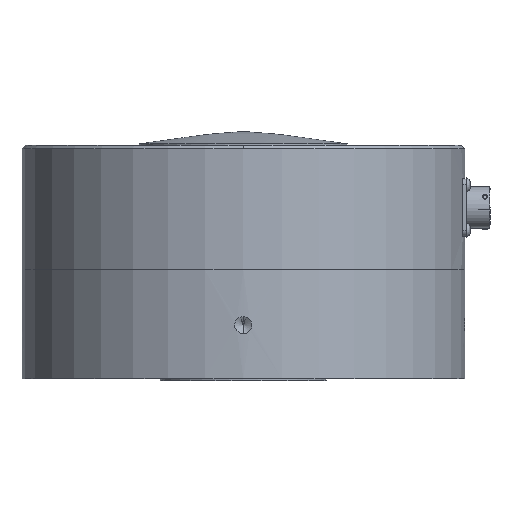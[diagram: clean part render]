
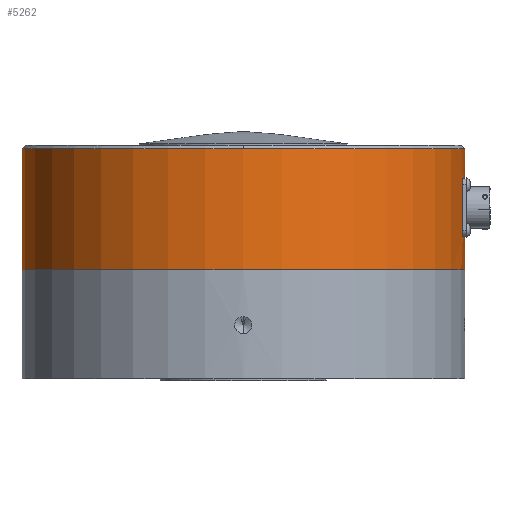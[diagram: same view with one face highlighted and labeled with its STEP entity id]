
A CAD part, front view. The second image highlights one B-rep face of the part: STEP entity #5262.
In plain terms, the highlighted cylindrical face has radius 101.575 mm (diameter 203.149 mm), a partial arc.
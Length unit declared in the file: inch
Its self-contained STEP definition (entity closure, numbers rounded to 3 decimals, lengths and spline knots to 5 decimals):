
#268 = EDGE_CURVE ( 'NONE', #7635, #1256, #9056, .T. ) ;
#827 = CARTESIAN_POINT ( 'NONE',  ( 3.96372, -0.53, -1.655 ) ) ;
#1110 = LINE ( 'NONE', #1111, #1112 ) ;
#1111 = CARTESIAN_POINT ( 'NONE',  ( 3.96372, -0.53, 0.48193 ) ) ;
#1112 = VECTOR ( 'NONE', #1113, 39.37008 ) ;
#1113 = DIRECTION ( 'NONE',  ( 0., 0., 1. ) ) ;
#1256 = VERTEX_POINT ( 'NONE', #9512 ) ;
#1283 = CARTESIAN_POINT ( 'NONE',  ( 3.999, 0., -0.595 ) ) ;
#1304 = CIRCLE ( 'NONE', #1305, 3.999 ) ;
#1305 = AXIS2_PLACEMENT_3D ( 'NONE', #1306, #1307, #1308 ) ;
#1306 = CARTESIAN_POINT ( 'NONE',  ( 0., 0., -1.655 ) ) ;
#1307 = DIRECTION ( 'NONE',  ( 0., 0., -1. ) ) ;
#1308 = DIRECTION ( 'NONE',  ( 1., 0., 0. ) ) ;
#1536 = LINE ( 'NONE', #1537, #1538 ) ;
#1537 = CARTESIAN_POINT ( 'NONE',  ( 3.999, 0., 0.48193 ) ) ;
#1538 = VECTOR ( 'NONE', #1539, 39.37008 ) ;
#1539 = DIRECTION ( 'NONE',  ( 0., 0., 1. ) ) ;
#2448 = CARTESIAN_POINT ( 'NONE',  ( 3.999, 0., -0.06 ) ) ;
#2593 = CIRCLE ( 'NONE', #2594, 3.999 ) ;
#2594 = AXIS2_PLACEMENT_3D ( 'NONE', #2595, #2598, #2599 ) ;
#2595 = CARTESIAN_POINT ( 'NONE',  ( 0., 0., -0.595 ) ) ;
#2598 = DIRECTION ( 'NONE',  ( 0., 0., 1. ) ) ;
#2599 = DIRECTION ( 'NONE',  ( 1., 0., 0. ) ) ;
#3632 = CARTESIAN_POINT ( 'NONE',  ( 3.96372, -0.53, -0.595 ) ) ;
#3796 = CARTESIAN_POINT ( 'NONE',  ( -3.999, 0., -0.06 ) ) ;
#3827 = ORIENTED_EDGE ( 'NONE', *, *, #8329, .T. ) ;
#3918 = LINE ( 'NONE', #3919, #3920 ) ;
#3919 = CARTESIAN_POINT ( 'NONE',  ( -3.999, 0., 0.48193 ) ) ;
#3920 = VECTOR ( 'NONE', #3921, 39.37008 ) ;
#3921 = DIRECTION ( 'NONE',  ( 0., 0., 1. ) ) ;
#4050 = VERTEX_POINT ( 'NONE', #11101 ) ;
#4118 = CIRCLE ( 'NONE', #4119, 3.999 ) ;
#4119 = AXIS2_PLACEMENT_3D ( 'NONE', #4120, #4121, #4122 ) ;
#4120 = CARTESIAN_POINT ( 'NONE',  ( 0., 0., -2.25 ) ) ;
#4121 = DIRECTION ( 'NONE',  ( 0., 0., 1. ) ) ;
#4122 = DIRECTION ( 'NONE',  ( 1., 0., 0. ) ) ;
#4273 = EDGE_CURVE ( 'NONE', #1256, #8187, #11248, .T. ) ;
#4290 = VERTEX_POINT ( 'NONE', #11253 ) ;
#4408 = ORIENTED_EDGE ( 'NONE', *, *, #8243, .F. ) ;
#4837 = LINE ( 'NONE', #4838, #4839 ) ;
#4838 = CARTESIAN_POINT ( 'NONE',  ( 3.999, 0., 0.48193 ) ) ;
#4839 = VECTOR ( 'NONE', #4840, 39.37008 ) ;
#4840 = DIRECTION ( 'NONE',  ( 0., 0., 1. ) ) ;
#4990 = EDGE_LOOP ( 'NONE', ( #4408, #3827, #8208, #8080, #7946, #7818, #7694, #7571, #7449 ) ) ;
#5262 = ADVANCED_FACE ( 'NONE', ( #11769 ), #11770, .T. ) ;
#5273 = CARTESIAN_POINT ( 'NONE',  ( 3.999, 0., -1.655 ) ) ;
#7287 = VERTEX_POINT ( 'NONE', #827 ) ;
#7342 = EDGE_CURVE ( 'NONE', #7287, #8093, #1110, .T. ) ;
#7374 = VERTEX_POINT ( 'NONE', #1283 ) ;
#7431 = EDGE_CURVE ( 'NONE', #7374, #7635, #1536, .T. ) ;
#7449 = ORIENTED_EDGE ( 'NONE', *, *, #4273, .T. ) ;
#7571 = ORIENTED_EDGE ( 'NONE', *, *, #268, .T. ) ;
#7635 = VERTEX_POINT ( 'NONE', #2448 ) ;
#7694 = ORIENTED_EDGE ( 'NONE', *, *, #7431, .T. ) ;
#7709 = EDGE_CURVE ( 'NONE', #8093, #7374, #2593, .T. ) ;
#7818 = ORIENTED_EDGE ( 'NONE', *, *, #7709, .T. ) ;
#7946 = ORIENTED_EDGE ( 'NONE', *, *, #7342, .T. ) ;
#8080 = ORIENTED_EDGE ( 'NONE', *, *, #12324, .T. ) ;
#8093 = VERTEX_POINT ( 'NONE', #3632 ) ;
#8187 = VERTEX_POINT ( 'NONE', #3796 ) ;
#8208 = ORIENTED_EDGE ( 'NONE', *, *, #8582, .T. ) ;
#8243 = EDGE_CURVE ( 'NONE', #4050, #8187, #3918, .T. ) ;
#8329 = EDGE_CURVE ( 'NONE', #4050, #4290, #4118, .T. ) ;
#8582 = EDGE_CURVE ( 'NONE', #4290, #8796, #4837, .T. ) ;
#8796 = VERTEX_POINT ( 'NONE', #5273 ) ;
#9056 = CIRCLE ( 'NONE', #9057, 3.999 ) ;
#9057 = AXIS2_PLACEMENT_3D ( 'NONE', #9058, #9059, #9060 ) ;
#9058 = CARTESIAN_POINT ( 'NONE',  ( 0., 0., -0.06 ) ) ;
#9059 = DIRECTION ( 'NONE',  ( 0., 0., -1. ) ) ;
#9060 = DIRECTION ( 'NONE',  ( 1., 0., 0. ) ) ;
#9512 = CARTESIAN_POINT ( 'NONE',  ( 0., -3.999, -0.06 ) ) ;
#11101 = CARTESIAN_POINT ( 'NONE',  ( -3.999, 0., -2.25 ) ) ;
#11248 = CIRCLE ( 'NONE', #11249, 3.999 ) ;
#11249 = AXIS2_PLACEMENT_3D ( 'NONE', #11250, #11251, #11252 ) ;
#11250 = CARTESIAN_POINT ( 'NONE',  ( 0., 0., -0.06 ) ) ;
#11251 = DIRECTION ( 'NONE',  ( 0., 0., -1. ) ) ;
#11252 = DIRECTION ( 'NONE',  ( 1., 0., 0. ) ) ;
#11253 = CARTESIAN_POINT ( 'NONE',  ( 3.999, 0., -2.25 ) ) ;
#11769 = FACE_OUTER_BOUND ( 'NONE', #4990, .T. ) ;
#11770 = CYLINDRICAL_SURFACE ( 'NONE', #11771, 3.999 ) ;
#11771 = AXIS2_PLACEMENT_3D ( 'NONE', #11772, #11773, #11774 ) ;
#11772 = CARTESIAN_POINT ( 'NONE',  ( 0., 0., 0.48193 ) ) ;
#11773 = DIRECTION ( 'NONE',  ( 0., 0., 1. ) ) ;
#11774 = DIRECTION ( 'NONE',  ( 1., 0., 0. ) ) ;
#12324 = EDGE_CURVE ( 'NONE', #8796, #7287, #1304, .T. ) ;
